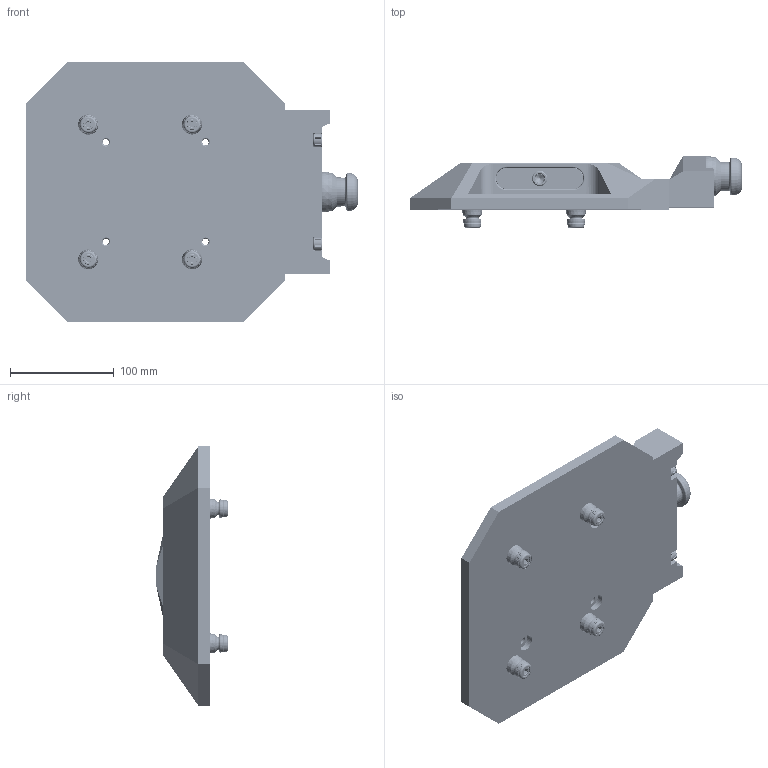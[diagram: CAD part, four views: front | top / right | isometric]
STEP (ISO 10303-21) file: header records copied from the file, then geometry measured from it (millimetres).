
FILE_DESCRIPTION (( 'STEP AP214' ), '1' );
FILE_NAME ('RL96A-DN250 WEBSITE.STEP', '2026-08-31T17:00:18', ( '' ), ( '' ), 'SwSTEP 2.0', 'SolidWorks 2024', '' );
FILE_SCHEMA (( 'AUTOMOTIVE_DESIGN' ));
Length unit declared in the file: millimetre
Products named in the file (19): D_RL96-2R_WEBSITE; HW.M16X40.FTSS_HW.M16X40.FTSS; XSPA-MINI-20; M10x020.DP_91595A640; RL96 Hardware - Website Simplified; 76176_76176; 5AX-PKL160; D_HW27X20.DB_WEBSITE; XSPB-MINI-20; M8X40.SHCS.12.9.BL_M8X40.SHCS.12.9.BL; D_SB54_WEBSITE_FINISHED PART; D_RL96-3_WEBSITE; HW.202.OR_9452K183; XSPA-40-16; RL96A-DN250 WEBSITE; RL96-1DN250A_RL96; XSPC-MINI-20; D_RL96-2L_WEBSITE; 033.OR
Assembly tree (36 placements, depth 3):
  RL96A-DN250 WEBSITE
    RL96-1DN250A_RL96
    5AX-PKL160
    XSPA-40-16
    XSPC-MINI-20  x2
    XSPB-MINI-20
    XSPA-MINI-20
    HW.M16X40.FTSS_HW.M16X40.FTSS
    M10x020.DP_91595A640  x2
    76176_76176  x4
    M8X40.SHCS.12.9.BL_M8X40.SHCS.12.9.BL  x6
    RL96 Hardware - Website Simplified
      D_RL96-2L_WEBSITE
      D_RL96-2R_WEBSITE
      D_RL96-3_WEBSITE
      D_SB54_WEBSITE_FINISHED PART  x2
      033.OR  x2
      D_HW27X20.DB_WEBSITE  x4
      HW.202.OR_9452K183  x4
Bounding box: 320 x 69.25 x 250 mm (x, y, z)
Volume: 2114973.6 mm3; surface area: 289109.4 mm2
Topology: 35 solids, 35 shells, 4274 faces, 11985 edges, 7882 vertices
Faces by surface type: plane 1607, cylinder 1296, torus 1071, cone 163, bspline 133, sphere 4
Full cylindrical faces by diameter (mm): 1.778 x4, 2.5 x2, 3.3 x2, 4 x2, 4.7 x2, 5 x6, 5.182 x2, 6.8 x10, 8 x132, 8.2 x4, 8.204 x2, 8.271 x6, 8.5 x4, 9 x8, 9.525 x2, 10 x6, 10.025 x2, 10.075 x2, 10.5 x4, 10.795 x1, 11.938 x4, 12 x4, 12.022 x4, 12.573 x4, 12.6 x6, 14 x7, 14.326 x11, 15.748 x2, 16.02 x4, 17.221 x1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
Entity records: 72747 total; most frequent: CARTESIAN_POINT 38196, ORIENTED_EDGE 6784, DIRECTION 5804, EDGE_CURVE 3392, VERTEX_POINT 2342, AXIS2_PLACEMENT_3D 2182, EDGE_LOOP 1820, FACE_OUTER_BOUND 1594
